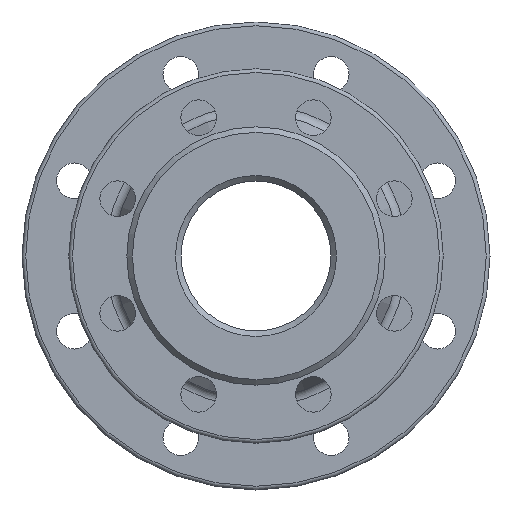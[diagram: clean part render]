
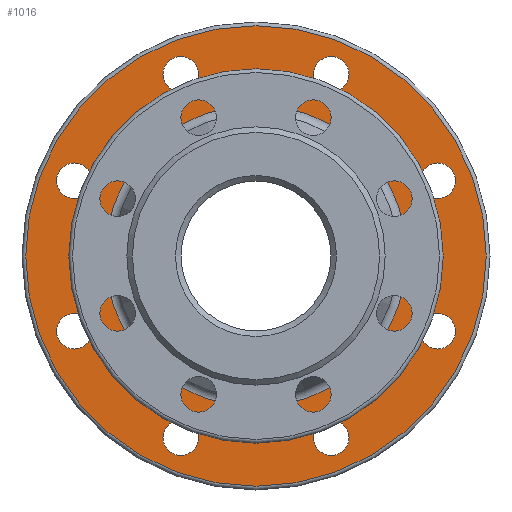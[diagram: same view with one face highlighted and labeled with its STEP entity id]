
A CAD part, left-side view. The second image highlights one B-rep face of the part: STEP entity #1016.
In plain terms, the highlighted planar face has unit normal (-1, 0, 0).
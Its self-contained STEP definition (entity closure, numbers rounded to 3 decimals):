
#15 = EDGE_CURVE ( 'NONE', #762, #762, #1951, .T. ) ;
#18 = FACE_BOUND ( 'NONE', #1904, .T. ) ;
#38 = AXIS2_PLACEMENT_3D ( 'NONE', #318, #1271, #2065 ) ;
#42 = EDGE_CURVE ( 'NONE', #2562, #2562, #1452, .T. ) ;
#56 = EDGE_CURVE ( 'NONE', #971, #971, #2164, .T. ) ;
#65 = CARTESIAN_POINT ( 'NONE',  ( 81., 0., 0. ) ) ;
#72 = EDGE_CURVE ( 'NONE', #145, #145, #2246, .T. ) ;
#78 = FACE_BOUND ( 'NONE', #976, .T. ) ;
#80 = AXIS2_PLACEMENT_3D ( 'NONE', #488, #1874, #693 ) ;
#94 = DIRECTION ( 'NONE',  ( 0., -1., 0. ) ) ;
#116 = AXIS2_PLACEMENT_3D ( 'NONE', #1645, #489, #1899 ) ;
#122 = ORIENTED_EDGE ( 'NONE', *, *, #42, .T. ) ;
#145 = VERTEX_POINT ( 'NONE', #1140 ) ;
#175 = DIRECTION ( 'NONE',  ( 1., 0., 0. ) ) ;
#212 = FACE_BOUND ( 'NONE', #1529, .T. ) ;
#239 = FACE_BOUND ( 'NONE', #1674, .T. ) ;
#256 = DIRECTION ( 'NONE',  ( -1., 0., 0. ) ) ;
#301 = DIRECTION ( 'NONE',  ( 1., 0., 0. ) ) ;
#303 = EDGE_CURVE ( 'NONE', #376, #376, #2072, .T. ) ;
#318 = CARTESIAN_POINT ( 'NONE',  ( 81., -97.007, 40.182 ) ) ;
#323 = EDGE_LOOP ( 'NONE', ( #1754 ) ) ;
#336 = VERTEX_POINT ( 'NONE', #1804 ) ;
#351 = DIRECTION ( 'NONE',  ( 0., -1., 0. ) ) ;
#376 = VERTEX_POINT ( 'NONE', #1566 ) ;
#452 = DIRECTION ( 'NONE',  ( 0., -1., 0. ) ) ;
#460 = CARTESIAN_POINT ( 'NONE',  ( 81., 0., 0. ) ) ;
#488 = CARTESIAN_POINT ( 'NONE',  ( 81., -40.182, -97.007 ) ) ;
#489 = DIRECTION ( 'NONE',  ( -1., 0., 0. ) ) ;
#598 = FACE_BOUND ( 'NONE', #2559, .T. ) ;
#629 = CARTESIAN_POINT ( 'NONE',  ( 81., -106.507, -40.182 ) ) ;
#632 = AXIS2_PLACEMENT_3D ( 'NONE', #1760, #1990, #2561 ) ;
#654 = DIRECTION ( 'NONE',  ( 1., 0., 0. ) ) ;
#669 = CIRCLE ( 'NONE', #632, 9.5 ) ;
#681 = EDGE_CURVE ( 'NONE', #336, #336, #2502, .T. ) ;
#693 = DIRECTION ( 'NONE',  ( 0., -1., 0. ) ) ;
#704 = AXIS2_PLACEMENT_3D ( 'NONE', #65, #256, #857 ) ;
#725 = EDGE_CURVE ( 'NONE', #1444, #1444, #911, .T. ) ;
#739 = AXIS2_PLACEMENT_3D ( 'NONE', #1003, #2409, #452 ) ;
#747 = CARTESIAN_POINT ( 'NONE',  ( 81., -40.182, 97.007 ) ) ;
#762 = VERTEX_POINT ( 'NONE', #939 ) ;
#781 = EDGE_LOOP ( 'NONE', ( #1377 ) ) ;
#854 = CARTESIAN_POINT ( 'NONE',  ( 81., -49.682, 97.007 ) ) ;
#857 = DIRECTION ( 'NONE',  ( 0., -1., 0. ) ) ;
#911 = CIRCLE ( 'NONE', #1415, 9.5 ) ;
#939 = CARTESIAN_POINT ( 'NONE',  ( 81., 30.682, -97.007 ) ) ;
#971 = VERTEX_POINT ( 'NONE', #1914 ) ;
#976 = EDGE_LOOP ( 'NONE', ( #1423 ) ) ;
#1000 = EDGE_CURVE ( 'NONE', #2467, #2467, #669, .T. ) ;
#1003 = CARTESIAN_POINT ( 'NONE',  ( 81., -97.007, -40.182 ) ) ;
#1010 = FACE_BOUND ( 'NONE', #1637, .T. ) ;
#1016 = ADVANCED_FACE ( 'NONE', ( #18, #598, #212, #1010, #78, #2416, #239, #2258, #1853, #1632 ), #2243, .T. ) ;
#1023 = ORIENTED_EDGE ( 'NONE', *, *, #681, .T. ) ;
#1069 = CARTESIAN_POINT ( 'NONE',  ( 81., 87.507, -40.182 ) ) ;
#1136 = CARTESIAN_POINT ( 'NONE',  ( 81., -80.685, 0. ) ) ;
#1140 = CARTESIAN_POINT ( 'NONE',  ( 81., -123., 0. ) ) ;
#1241 = ORIENTED_EDGE ( 'NONE', *, *, #15, .T. ) ;
#1243 = AXIS2_PLACEMENT_3D ( 'NONE', #2055, #1464, #1885 ) ;
#1252 = CARTESIAN_POINT ( 'NONE',  ( 81., 40.182, -97.007 ) ) ;
#1271 = DIRECTION ( 'NONE',  ( 1., 0., 0. ) ) ;
#1347 = CARTESIAN_POINT ( 'NONE',  ( 81., -49.682, -97.007 ) ) ;
#1359 = DIRECTION ( 'NONE',  ( 0., -1., 0. ) ) ;
#1377 = ORIENTED_EDGE ( 'NONE', *, *, #2418, .F. ) ;
#1415 = AXIS2_PLACEMENT_3D ( 'NONE', #747, #175, #1359 ) ;
#1423 = ORIENTED_EDGE ( 'NONE', *, *, #303, .T. ) ;
#1444 = VERTEX_POINT ( 'NONE', #854 ) ;
#1452 = CIRCLE ( 'NONE', #80, 9.5 ) ;
#1464 = DIRECTION ( 'NONE',  ( 1., 0., 0. ) ) ;
#1468 = CARTESIAN_POINT ( 'NONE',  ( 81., 40.182, 97.007 ) ) ;
#1529 = EDGE_LOOP ( 'NONE', ( #1023 ) ) ;
#1566 = CARTESIAN_POINT ( 'NONE',  ( 81., -106.507, 40.182 ) ) ;
#1617 = DIRECTION ( 'NONE',  ( -1., 0., 0. ) ) ;
#1624 = AXIS2_PLACEMENT_3D ( 'NONE', #460, #1617, #1643 ) ;
#1632 = FACE_BOUND ( 'NONE', #781, .T. ) ;
#1637 = EDGE_LOOP ( 'NONE', ( #2397 ) ) ;
#1643 = DIRECTION ( 'NONE',  ( 0., -1., 0. ) ) ;
#1645 = CARTESIAN_POINT ( 'NONE',  ( 81., 0., 0. ) ) ;
#1674 = EDGE_LOOP ( 'NONE', ( #122 ) ) ;
#1719 = VERTEX_POINT ( 'NONE', #1136 ) ;
#1754 = ORIENTED_EDGE ( 'NONE', *, *, #72, .T. ) ;
#1760 = CARTESIAN_POINT ( 'NONE',  ( 81., 97.007, -40.182 ) ) ;
#1804 = CARTESIAN_POINT ( 'NONE',  ( 81., 30.682, 97.007 ) ) ;
#1847 = EDGE_CURVE ( 'NONE', #2453, #2453, #2155, .T. ) ;
#1853 = FACE_OUTER_BOUND ( 'NONE', #323, .T. ) ;
#1855 = CIRCLE ( 'NONE', #116, 80.685 ) ;
#1874 = DIRECTION ( 'NONE',  ( 1., 0., 0. ) ) ;
#1885 = DIRECTION ( 'NONE',  ( 0., -1., 0. ) ) ;
#1899 = DIRECTION ( 'NONE',  ( 0., -1., 0. ) ) ;
#1904 = EDGE_LOOP ( 'NONE', ( #2140 ) ) ;
#1914 = CARTESIAN_POINT ( 'NONE',  ( 81., 87.507, 40.182 ) ) ;
#1951 = CIRCLE ( 'NONE', #2540, 9.5 ) ;
#1990 = DIRECTION ( 'NONE',  ( 1., 0., 0. ) ) ;
#2055 = CARTESIAN_POINT ( 'NONE',  ( 81., 97.007, 40.182 ) ) ;
#2065 = DIRECTION ( 'NONE',  ( 0., -1., 0. ) ) ;
#2072 = CIRCLE ( 'NONE', #38, 9.5 ) ;
#2140 = ORIENTED_EDGE ( 'NONE', *, *, #1000, .T. ) ;
#2155 = CIRCLE ( 'NONE', #739, 9.5 ) ;
#2164 = CIRCLE ( 'NONE', #1243, 9.5 ) ;
#2234 = ORIENTED_EDGE ( 'NONE', *, *, #1847, .T. ) ;
#2243 = PLANE ( 'NONE',  #1624 ) ;
#2246 = CIRCLE ( 'NONE', #704, 123. ) ;
#2249 = EDGE_LOOP ( 'NONE', ( #2234 ) ) ;
#2258 = FACE_BOUND ( 'NONE', #2503, .T. ) ;
#2331 = AXIS2_PLACEMENT_3D ( 'NONE', #1468, #301, #351 ) ;
#2397 = ORIENTED_EDGE ( 'NONE', *, *, #725, .T. ) ;
#2409 = DIRECTION ( 'NONE',  ( 1., 0., 0. ) ) ;
#2416 = FACE_BOUND ( 'NONE', #2249, .T. ) ;
#2418 = EDGE_CURVE ( 'NONE', #1719, #1719, #1855, .T. ) ;
#2440 = ORIENTED_EDGE ( 'NONE', *, *, #56, .T. ) ;
#2453 = VERTEX_POINT ( 'NONE', #629 ) ;
#2467 = VERTEX_POINT ( 'NONE', #1069 ) ;
#2502 = CIRCLE ( 'NONE', #2331, 9.5 ) ;
#2503 = EDGE_LOOP ( 'NONE', ( #1241 ) ) ;
#2540 = AXIS2_PLACEMENT_3D ( 'NONE', #1252, #654, #94 ) ;
#2559 = EDGE_LOOP ( 'NONE', ( #2440 ) ) ;
#2561 = DIRECTION ( 'NONE',  ( 0., -1., 0. ) ) ;
#2562 = VERTEX_POINT ( 'NONE', #1347 ) ;
